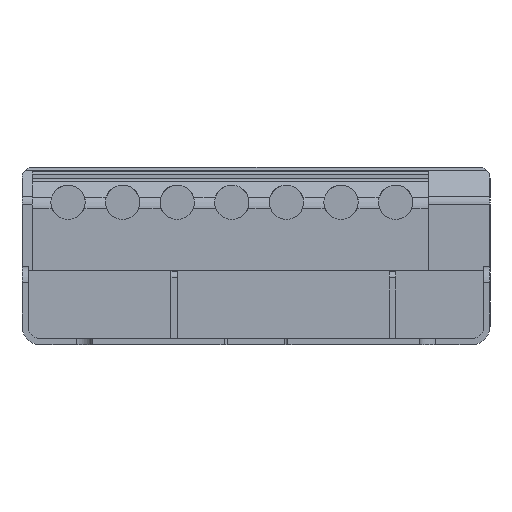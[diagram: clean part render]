
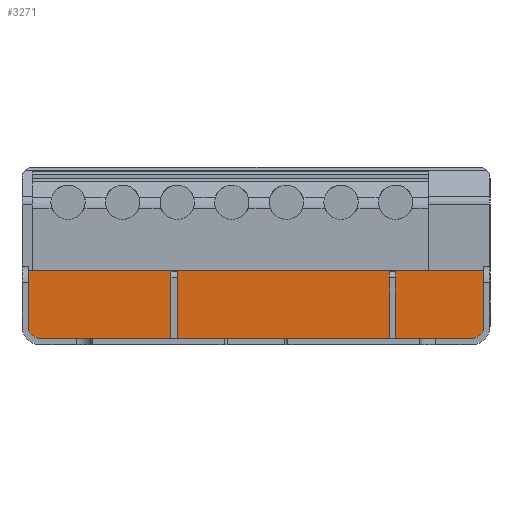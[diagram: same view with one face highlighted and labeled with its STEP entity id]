
A CAD part, left-side view. The second image highlights one B-rep face of the part: STEP entity #3271.
In plain terms, the highlighted planar face has unit normal (-1, 0, 0).
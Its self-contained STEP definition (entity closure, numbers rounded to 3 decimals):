
#109=DIRECTION('',(0.,0.,-1.));
#110=VECTOR('',#109,3.54);
#111=CARTESIAN_POINT('',(9.,14.6,4.74));
#112=LINE('',#111,#110);
#180=DIRECTION('',(0.,0.,1.));
#181=VECTOR('',#180,4.3);
#182=CARTESIAN_POINT('',(9.,-8.55,0.4));
#183=LINE('',#182,#181);
#184=DIRECTION('',(0.,0.,1.));
#185=VECTOR('',#184,4.3);
#186=CARTESIAN_POINT('',(9.,5.45,0.4));
#187=LINE('',#186,#185);
#188=CARTESIAN_POINT('',(9.,13.8,1.2));
#189=DIRECTION('',(-1.,0.,0.));
#190=DIRECTION('',(0.,1.,0.));
#191=AXIS2_PLACEMENT_3D('',#188,#189,#190);
#193=DIRECTION('',(0.,-1.,0.));
#194=VECTOR('',#193,29.2);
#195=CARTESIAN_POINT('',(9.,14.6,4.74));
#196=LINE('',#195,#194);
#197=DIRECTION('',(0.,0.,1.));
#198=VECTOR('',#197,3.54);
#199=CARTESIAN_POINT('',(9.,-14.6,1.2));
#200=LINE('',#199,#198);
#201=CARTESIAN_POINT('',(9.,-13.8,1.2));
#202=DIRECTION('',(-1.,0.,0.));
#203=DIRECTION('',(0.,0.,-1.));
#204=AXIS2_PLACEMENT_3D('',#201,#202,#203);
#316=DIRECTION('',(0.,1.,0.));
#317=VECTOR('',#316,8.35);
#318=CARTESIAN_POINT('',(9.,5.45,0.4));
#319=LINE('',#318,#317);
#332=DIRECTION('',(0.,1.,0.));
#333=VECTOR('',#332,13.6);
#334=CARTESIAN_POINT('',(9.,-8.55,0.4));
#335=LINE('',#334,#333);
#348=DIRECTION('',(0.,1.,0.));
#349=VECTOR('',#348,4.85);
#350=CARTESIAN_POINT('',(9.,-13.8,0.4));
#351=LINE('',#350,#349);
#1710=DIRECTION('',(0.,1.,0.));
#1711=VECTOR('',#1710,0.4);
#1712=CARTESIAN_POINT('',(9.,5.05,4.7));
#1713=LINE('',#1712,#1711);
#1718=DIRECTION('',(0.,1.,0.));
#1719=VECTOR('',#1718,0.4);
#1720=CARTESIAN_POINT('',(9.,-8.95,4.7));
#1721=LINE('',#1720,#1719);
#1731=DIRECTION('',(0.,0.,-1.));
#1732=VECTOR('',#1731,4.3);
#1733=CARTESIAN_POINT('',(9.,5.05,4.7));
#1734=LINE('',#1733,#1732);
#1773=DIRECTION('',(0.,0.,-1.));
#1774=VECTOR('',#1773,4.3);
#1775=CARTESIAN_POINT('',(9.,-8.95,4.7));
#1776=LINE('',#1775,#1774);
#2421=CARTESIAN_POINT('',(9.,-8.95,0.4));
#2423=VERTEX_POINT('',#2421);
#2427=CARTESIAN_POINT('',(9.,-8.55,0.4));
#2428=CARTESIAN_POINT('',(9.,5.05,0.4));
#2429=VERTEX_POINT('',#2427);
#2430=VERTEX_POINT('',#2428);
#2435=CARTESIAN_POINT('',(9.,5.45,0.4));
#2436=VERTEX_POINT('',#2435);
#2649=CARTESIAN_POINT('',(9.,-13.8,0.4));
#2651=VERTEX_POINT('',#2649);
#2653=CARTESIAN_POINT('',(9.,-14.6,1.2));
#2655=VERTEX_POINT('',#2653);
#2658=CARTESIAN_POINT('',(9.,13.8,0.4));
#2660=VERTEX_POINT('',#2658);
#2662=CARTESIAN_POINT('',(9.,14.6,1.2));
#2664=VERTEX_POINT('',#2662);
#2937=CARTESIAN_POINT('',(9.,-14.6,4.74));
#2938=VERTEX_POINT('',#2937);
#2939=CARTESIAN_POINT('',(9.,14.6,4.74));
#2940=VERTEX_POINT('',#2939);
#2945=CARTESIAN_POINT('',(9.,-8.95,4.7));
#2946=VERTEX_POINT('',#2945);
#2947=CARTESIAN_POINT('',(9.,5.05,4.7));
#2948=VERTEX_POINT('',#2947);
#2949=CARTESIAN_POINT('',(9.,5.45,4.7));
#2950=VERTEX_POINT('',#2949);
#2951=CARTESIAN_POINT('',(9.,-8.55,4.7));
#2952=VERTEX_POINT('',#2951);
#3238=CARTESIAN_POINT('',(9.,-14.6,0.4));
#3239=DIRECTION('',(1.,0.,0.));
#3240=DIRECTION('',(0.,1.,0.));
#3241=AXIS2_PLACEMENT_3D('',#3238,#3239,#3240);
#3242=PLANE('',#3241);
#3244=ORIENTED_EDGE('',*,*,#3243,.T.);
#3246=ORIENTED_EDGE('',*,*,#3245,.F.);
#3248=ORIENTED_EDGE('',*,*,#3247,.T.);
#3250=ORIENTED_EDGE('',*,*,#3249,.F.);
#3252=ORIENTED_EDGE('',*,*,#3251,.T.);
#3254=ORIENTED_EDGE('',*,*,#3253,.F.);
#3256=ORIENTED_EDGE('',*,*,#3255,.T.);
#3258=ORIENTED_EDGE('',*,*,#3257,.F.);
#3260=ORIENTED_EDGE('',*,*,#3259,.T.);
#3262=ORIENTED_EDGE('',*,*,#3261,.F.);
#3263=ORIENTED_EDGE('',*,*,#3158,.F.);
#3264=ORIENTED_EDGE('',*,*,#3213,.T.);
#3266=ORIENTED_EDGE('',*,*,#3265,.F.);
#3268=ORIENTED_EDGE('',*,*,#3267,.F.);
#3269=EDGE_LOOP('',(#3244,#3246,#3248,#3250,#3252,#3254,#3256,#3258,#3260,#3262,
#3263,#3264,#3266,#3268));
#3270=FACE_OUTER_BOUND('',#3269,.F.);
#3271=ADVANCED_FACE('',(#3270),#3242,.F.);
#192=CIRCLE('',#191,0.8);
#205=CIRCLE('',#204,0.8);
#3158=EDGE_CURVE('',#2940,#2664,#112,.T.);
#3213=EDGE_CURVE('',#2940,#2938,#196,.T.);
#3243=EDGE_CURVE('',#2651,#2423,#351,.T.);
#3245=EDGE_CURVE('',#2946,#2423,#1776,.T.);
#3247=EDGE_CURVE('',#2946,#2952,#1721,.T.);
#3249=EDGE_CURVE('',#2429,#2952,#183,.T.);
#3251=EDGE_CURVE('',#2429,#2430,#335,.T.);
#3253=EDGE_CURVE('',#2948,#2430,#1734,.T.);
#3255=EDGE_CURVE('',#2948,#2950,#1713,.T.);
#3257=EDGE_CURVE('',#2436,#2950,#187,.T.);
#3259=EDGE_CURVE('',#2436,#2660,#319,.T.);
#3261=EDGE_CURVE('',#2664,#2660,#192,.T.);
#3265=EDGE_CURVE('',#2655,#2938,#200,.T.);
#3267=EDGE_CURVE('',#2651,#2655,#205,.T.);
